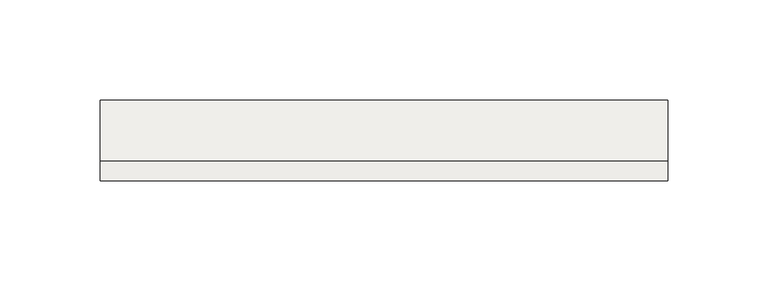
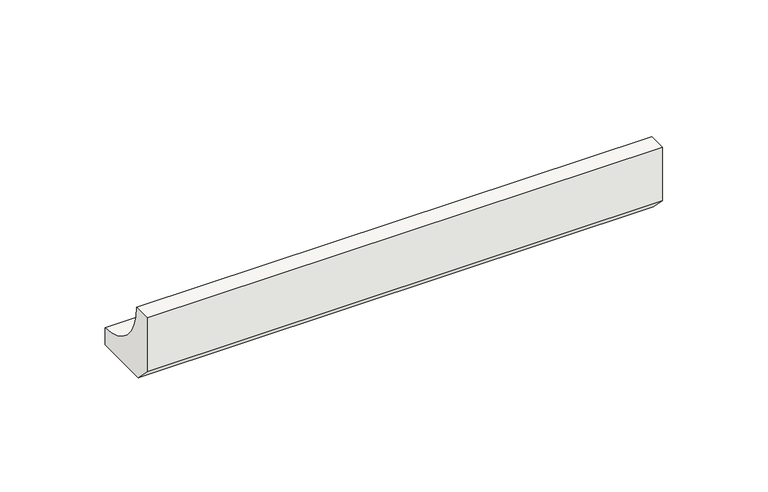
"""IFC4 building model written with IfcOpenShell, lengths in millimetres: slab geometry, ROSA GRES_112 : Pieza 112_Aqua_Marino_Liso."""

from ifc_helpers import new_model, si_unit, point, frame, frame_2d, origin, place, context, project, spatial, polyline, circle_curve, trimmed, segment, composite_curve, outline, extrude, source, transform, mapped, element, save


def slab_2e8b4356(model_context):
    return source(origin(), model_context, "Body", "SweptSolid", [
        extrude(outline(composite_curve([segment(polyline([(0.0, 8.7114978), (0.0, 40.0), (9.9734114, 40.0)]), True, "CONTINUOUS"), segment(trimmed(circle_curve(frame_2d((39.9955547, 39.9955547)), 30.0221435), [point((9.9734114, 40.0))], [point((40.0, 9.9734114))], True, "CARTESIAN"), True, "CONTINUOUS"), segment(polyline([(40.0, 9.9734114), (40.0, 0.0), (8.7114978, 0.0), (0.0, 8.7114978)]), True, "CONTINUOUS")], self_intersect=False)), frame((0.0, 0.0, 0.0), z_axis=(1.0, 0.0, 0.0), x_axis=(0.0, 1.0, 0.0)), (0.0, 0.0, 1.0), 282.8125),
    ])


if __name__ == "__main__":
    model = new_model("IFC4")
    model_context = context("Model", 3, world=origin())
    ifc_project = project(units=[si_unit("LENGTHUNIT", "METRE", prefix="MILLI")], contexts=[model_context])
    site = spatial("IfcSite", under=ifc_project)
    building = spatial("IfcBuilding", under=site)
    placement = place(None, origin())
    slab_shape = slab_2e8b4356(model_context)
    element("IfcSlab", 1, ObjectType="ROSA GRES_112 : Pieza 112_Aqua_Marino_Liso", at=placement, inside=building, context=model_context, shape_type="MappedRepresentation", body=[
        mapped(slab_shape, transform((0.0, 0.0, 0.0), x_axis=(1.0, 0.0, 0.0), y_axis=(0.0, 1.0, 0.0), z_axis=(0.0, 0.0, 1.0))),
    ])
    save(model, "model.ifc")
